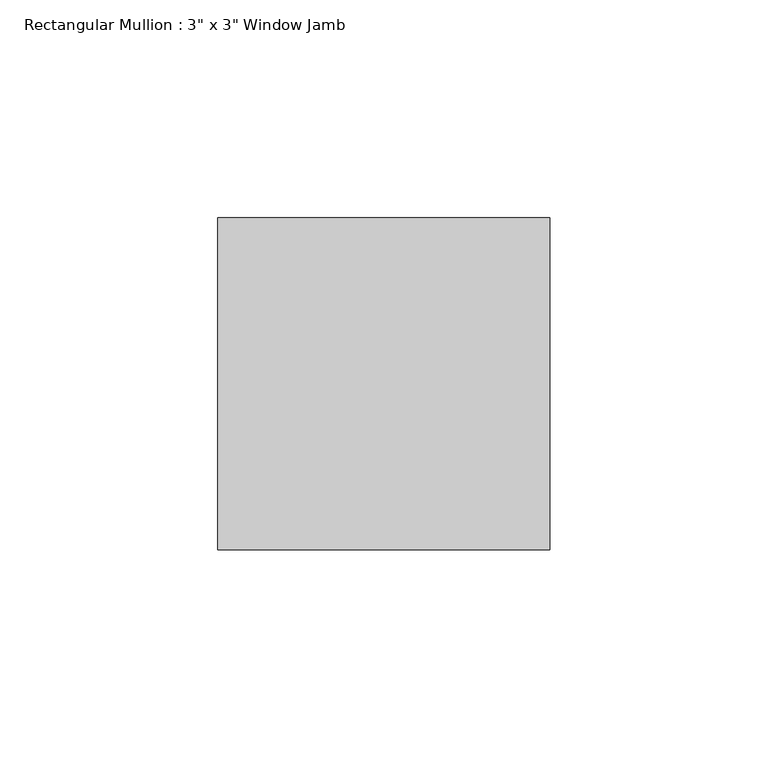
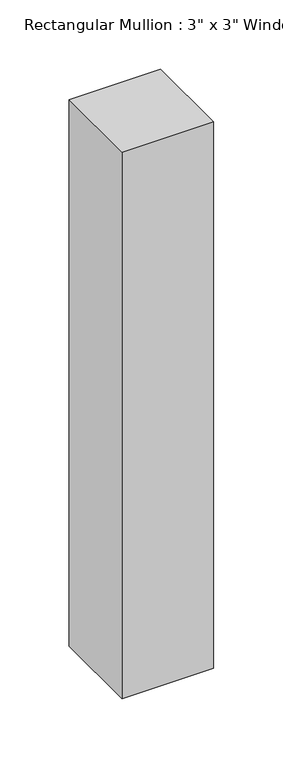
"""IFC4 building model written with IfcOpenShell, lengths in millimetres: member geometry."""

from ifc_helpers import new_model, si_unit, frame, origin, place, context, project, spatial, polyline, outline, extrude, source, transform, mapped, element, save


def member_40290cd5(model_context):
    return source(origin(), model_context, "Body", "SweptSolid", [
        extrude(outline(polyline([(0.0, 25.4), (0.0, -50.8), (-76.2, -50.8), (-76.2, 25.4), (0.0, 25.4)])), frame((0.0, 0.0, -480.6840494), z_axis=(0.0, 0.0, 1.0), x_axis=(1.0, 0.0, 0.0)), (0.0, 0.0, 1.0), 480.6840494),
    ])


if __name__ == "__main__":
    model = new_model("IFC4")
    model_context = context("Model", 3, world=origin())
    ifc_project = project(units=[si_unit("LENGTHUNIT", "METRE", prefix="MILLI")], contexts=[model_context])
    site = spatial("IfcSite", under=ifc_project)
    building = spatial("IfcBuilding", under=site)
    placement = place(None, origin())
    member_shape = member_40290cd5(model_context)
    element("IfcMember", 1, ObjectType="Rectangular Mullion : 3\" x 3\" Window Jamb", at=placement, inside=building, context=model_context, shape_type="MappedRepresentation", body=[
        mapped(member_shape, transform((0.0, 0.0, 0.0), x_axis=(1.0, 0.0, 0.0), y_axis=(0.0, 1.0, 0.0), z_axis=(0.0, 0.0, 1.0))),
    ])
    save(model, "model.ifc")
